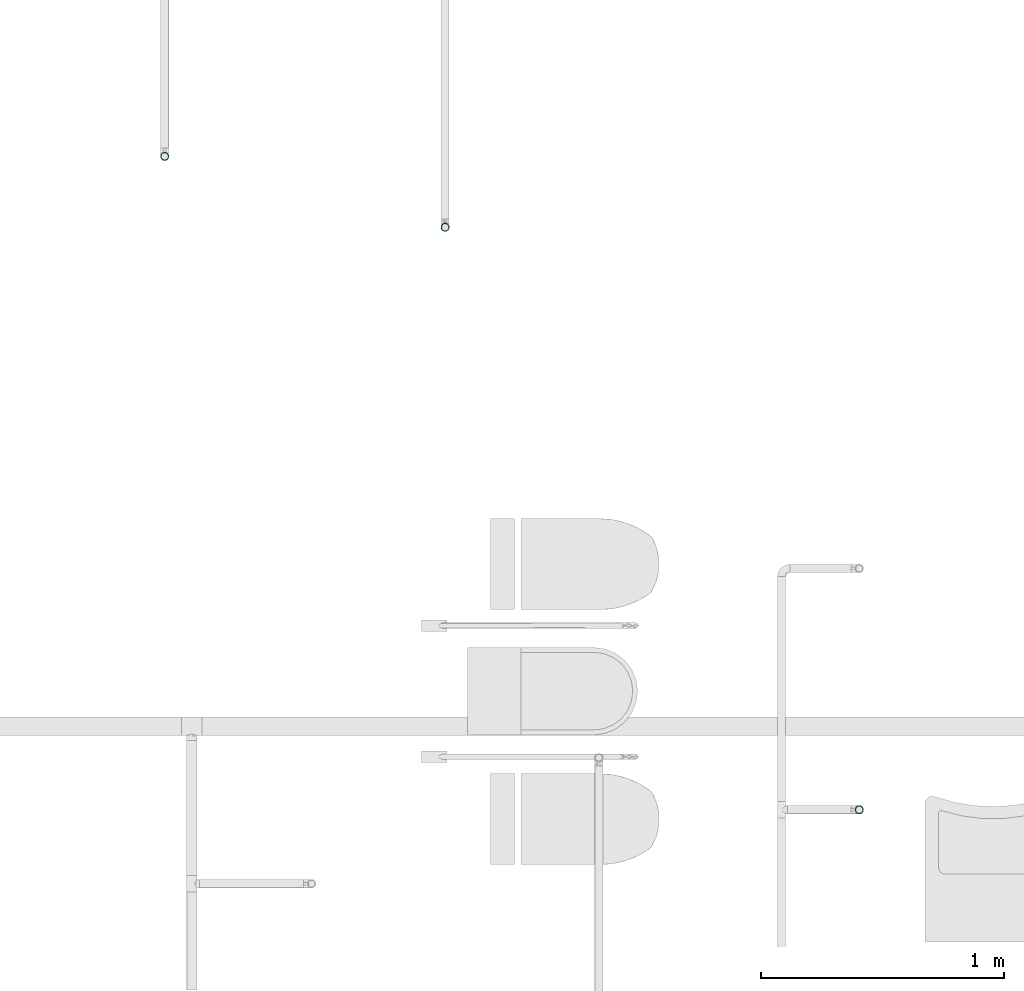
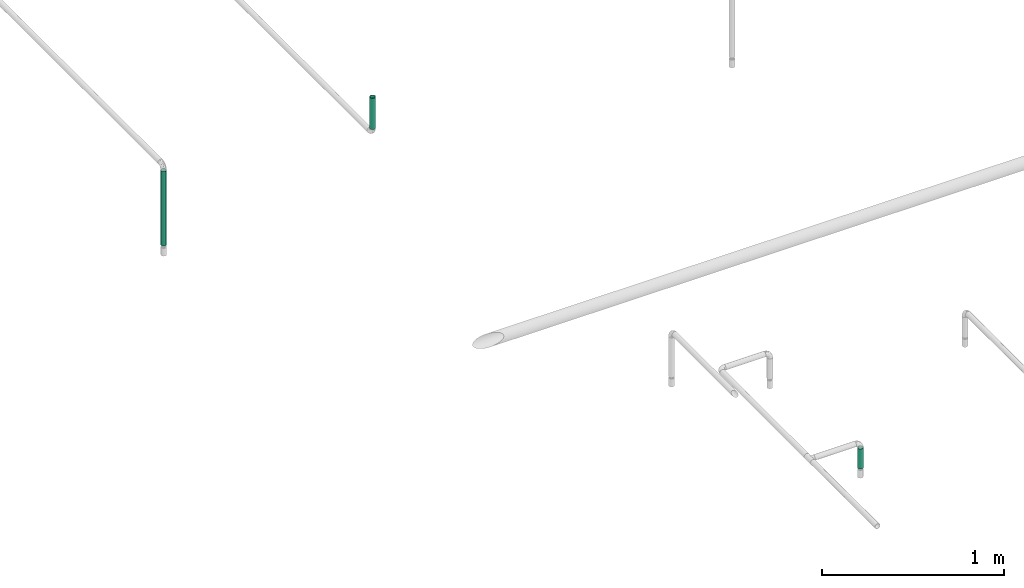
# One storey, part 10 of 95: 3 flow segments.
"""IFC2X3 building model written with IfcOpenShell, lengths in millimetres."""

from ifc_helpers import new_model, entity, si_unit, converted_unit, derived_unit, direction, frame, origin_with_axes, origin_2d_with_axis, place, context, subcontext, project, spatial, hollow_circle, extrude, source, transform, mapped, type_object, element, save


model = new_model("IFC2X3")

# Units and contexts
model_context = context("Model", 3, precision=0.01, world=frame((0.0, 4.29681676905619e-09, 0.0)), true_north=direction((4.01073788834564e-13, 1.0)))
plan_context = context("Plan", 3, precision=0.01, world=frame((0.0, 4.29681676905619e-09, 0.0)), true_north=direction((4.01073788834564e-13, 1.0)))
body_context = subcontext(model_context, "Body", "Model", "MODEL_VIEW")
ifc_project = project(units=[converted_unit("PLANEANGLEUNIT", "DEGREE", entity("IfcPositiveLengthMeasure", 0.0174532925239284), si_unit("PLANEANGLEUNIT", "RADIAN"), dimensions=[0, 0, 0, 0, 0, 0, 0]), si_unit("AREAUNIT", "SQUARE_METRE"), si_unit("LENGTHUNIT", "METRE", prefix="MILLI"), si_unit("MASSUNIT", "GRAM", prefix="KILO"), si_unit("POWERUNIT", "WATT"), si_unit("PRESSUREUNIT", "PASCAL"), si_unit("FORCEUNIT", "NEWTON", prefix="KILO"), si_unit("ELECTRICVOLTAGEUNIT", "VOLT"), si_unit("ELECTRICCURRENTUNIT", "AMPERE"), si_unit("THERMODYNAMICTEMPERATUREUNIT", "DEGREE_CELSIUS"), si_unit("TIMEUNIT", "SECOND"), si_unit("VOLUMEUNIT", "CUBIC_METRE"), derived_unit("LINEARVELOCITYUNIT", [(si_unit("LENGTHUNIT", "METRE"), 1), (si_unit("TIMEUNIT", "SECOND"), -1)]), derived_unit("VOLUMETRICFLOWRATEUNIT", [(si_unit("VOLUMEUNIT", "CUBIC_METRE"), 1), (si_unit("TIMEUNIT", "SECOND"), -1)]), derived_unit("THERMALTRANSMITTANCEUNIT", [(si_unit("POWERUNIT", "WATT"), 1), (si_unit("THERMODYNAMICTEMPERATUREUNIT", "KELVIN"), -1), (si_unit("AREAUNIT", "SQUARE_METRE"), -1)]), derived_unit("SOUNDPRESSUREUNIT", [(si_unit("PRESSUREUNIT", "PASCAL"), 1)])], contexts=[model_context, plan_context])

# Site, building, storey
site_placement = place(None, frame((0.0, -4.29681676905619e-09, 0.0), z_axis=(0.0, 0.0, 1.0), x_axis=(1.0, 0.0, 0.0)))
site = spatial("IfcSite", under=ifc_project, at=site_placement, CompositionType="ELEMENT")
building_placement = place(site_placement, frame((0.0, 4.29681676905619e-09, 0.0), z_axis=(0.0, 0.0, 1.0), x_axis=(1.0, 0.0, 0.0)))
building = spatial("IfcBuilding", under=site, at=building_placement, Name="mc-building", CompositionType="ELEMENT")
storey_placement = place(building_placement, frame((0.0, 0.0, 210900.0), z_axis=(0.0, 0.0, 1.0), x_axis=(1.0, 0.0, 0.0)))
storey = spatial("IfcBuildingStorey", under=building, at=storey_placement, Name="Nivå F", CompositionType="ELEMENT", Elevation=210900.0)

# Flow segments
pipe_segment_type = type_object("IfcPipeSegmentType", Name="Stålrør normaltykke", PredefinedType="RIGIDSEGMENT")
shared_shape_1 = source(origin_with_axes(), body_context, "Body", "SweptSolid", [
    extrude(hollow_circle(Radius=16.9, WallThickness=2.0, at=origin_2d_with_axis()), frame((0.0, 0.0, 0.0), z_axis=(1.0, 0.0, 0.0), x_axis=(0.0, 1.0, 0.0)), (0.0, 0.0, 1.0), 133.9),
])
flow_segment_1_placement = place(storey_placement, frame((532758.65743, 441518.15849, 3046.35000000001), z_axis=(0.0, -1.0, 0.0), x_axis=(0.0, 0.0, -1.0)))
element("IfcFlowSegment", 1, at=flow_segment_1_placement, inside=storey, type_object=pipe_segment_type, Name="Stålrør normaltykke", context=body_context, shape_type="MappedRepresentation", body=[
    mapped(shared_shape_1, transform((0.0, 0.0, 0.0), scale=1.0)),
])
shared_shape_2 = source(origin_with_axes(), body_context, "Body", "SweptSolid", [
    extrude(hollow_circle(Radius=16.9, WallThickness=2.0, at=origin_2d_with_axis()), frame((0.0, 0.0, 0.0), z_axis=(1.0, 0.0, 0.0), x_axis=(0.0, 1.0, 0.0)), (0.0, 0.0, 1.0), 209.5),
])
flow_segment_2_placement = place(storey_placement, frame((531053.43639, 443915.88295, 4328.18552999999), z_axis=(0.0, 1.0, 0.0), x_axis=(0.0, 0.0, 1.0)))
element("IfcFlowSegment", 2, at=flow_segment_2_placement, inside=storey, type_object=pipe_segment_type, Name="Stålrør normaltykke", context=body_context, shape_type="MappedRepresentation", body=[
    mapped(shared_shape_2, transform((0.0, 0.0, 0.0), scale=1.0)),
])
shared_shape_3 = source(origin_with_axes(), body_context, "Body", "SweptSolid", [
    extrude(hollow_circle(Radius=16.9, WallThickness=2.0, at=origin_2d_with_axis()), frame((0.0, 0.0, 0.0), z_axis=(1.0, 0.0, 0.0), x_axis=(0.0, 1.0, 0.0)), (0.0, 0.0, 1.0), 499.1),
])
flow_segment_3_placement = place(storey_placement, frame((529898.68266, 444207.85, 3775.348), z_axis=(-1.0, 0.0, 0.0), x_axis=(0.0, 0.0, 1.0)))
element("IfcFlowSegment", 3, at=flow_segment_3_placement, inside=storey, type_object=pipe_segment_type, Name="Stålrør normaltykke", context=body_context, shape_type="MappedRepresentation", body=[
    mapped(shared_shape_3, transform((0.0, 0.0, 0.0), scale=1.0)),
])

save(model, "model.ifc")
